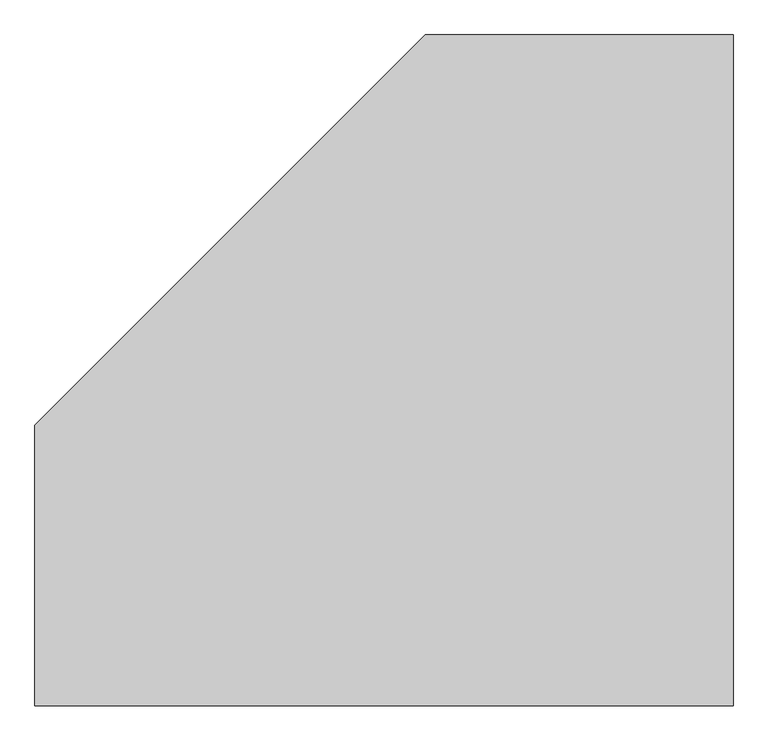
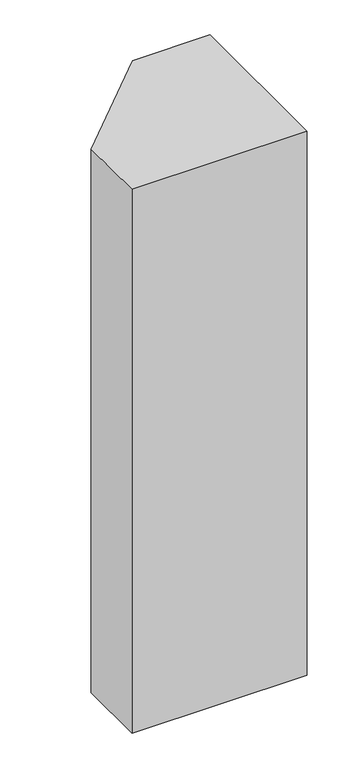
"""IFC4 building model written with IfcOpenShell, lengths in millimetres: column geometry, 柱 1 : 柱 1."""

from ifc_helpers import new_model, si_unit, origin, origin_with_axes, place, context, project, spatial, polyline, outline, extrude, source, transform, mapped, element, save


def column_736fa4ae(model_context):
    return source(origin(), model_context, "Body", "SweptSolid", [
        extrude(outline(polyline([(211.1534801, 10996.9125867), (778.3107668, 11564.0698734), (1226.1844448, 11564.0698734), (1226.1844448, 10589.0698742), (211.1534801, 10589.0698742), (211.1534801, 10996.9125867)])), origin_with_axes(), (0.0, 0.0, 1.0), 3330.0),
    ])


if __name__ == "__main__":
    model = new_model("IFC4")
    model_context = context("Model", 3, world=origin())
    ifc_project = project(units=[si_unit("LENGTHUNIT", "METRE", prefix="MILLI")], contexts=[model_context])
    site = spatial("IfcSite", under=ifc_project)
    building = spatial("IfcBuilding", under=site)
    placement = place(None, origin())
    column_shape = column_736fa4ae(model_context)
    element("IfcColumn", 1, ObjectType="柱 1 : 柱 1", at=placement, inside=building, context=model_context, shape_type="MappedRepresentation", body=[
        mapped(column_shape, transform((0.0, 0.0, 0.0), x_axis=(1.0, 0.0, 0.0), y_axis=(0.0, 1.0, 0.0), z_axis=(0.0, 0.0, 1.0))),
    ])
    save(model, "model.ifc")
